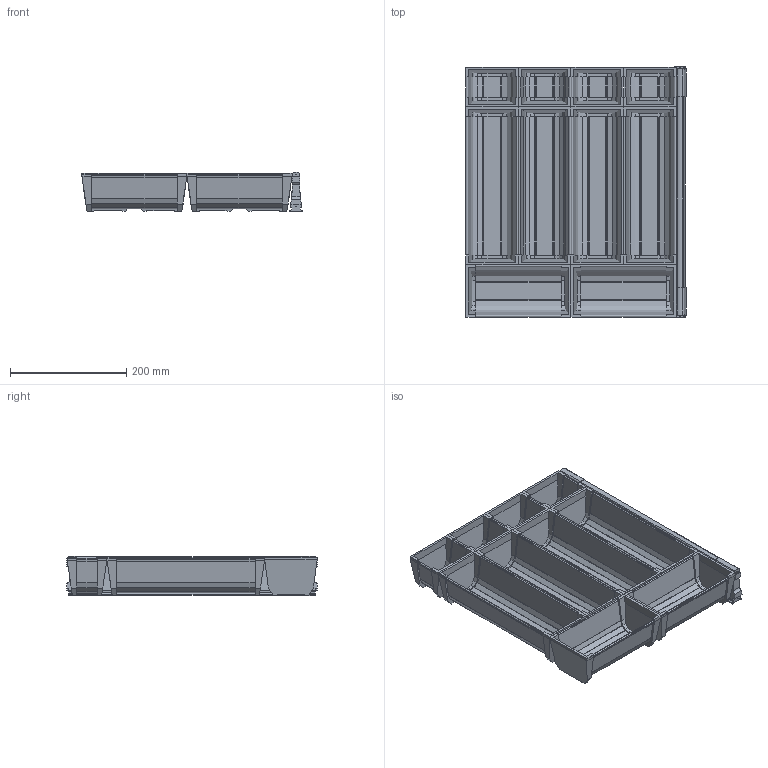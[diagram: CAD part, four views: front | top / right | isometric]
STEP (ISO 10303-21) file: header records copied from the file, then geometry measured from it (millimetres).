
FILE_DESCRIPTION (( 'STEP AP214' ), '1' );
FILE_NAME ('Inoxsys_B4_NL-450.STEP', '2010-08-17T11:35:34', ( 'grass' ), ( '' ), 'SwSTEP 2.0', 'SolidWorks 2010', '' );
FILE_SCHEMA (( 'AUTOMOTIVE_DESIGN' ));
Length unit declared in the file: millimetre
Products named in the file (1): Inoxsys_B4_NL-450
Bounding box: 379.4 x 431 x 67.5 mm (x, y, z)
Volume: 970219.5 mm3; surface area: 890589.1 mm2
Topology: 11 solids, 11 shells, 1245 faces, 3609 edges, 2406 vertices
Faces by surface type: plane 857, cylinder 388
Entity records: 54802 total; most frequent: CARTESIAN_POINT 7639, ORIENTED_EDGE 7218, DIRECTION 6753, EDGE_CURVE 3609, VECTOR 2777, LINE 2777, VERTEX_POINT 2406, AXIS2_PLACEMENT_3D 1988
